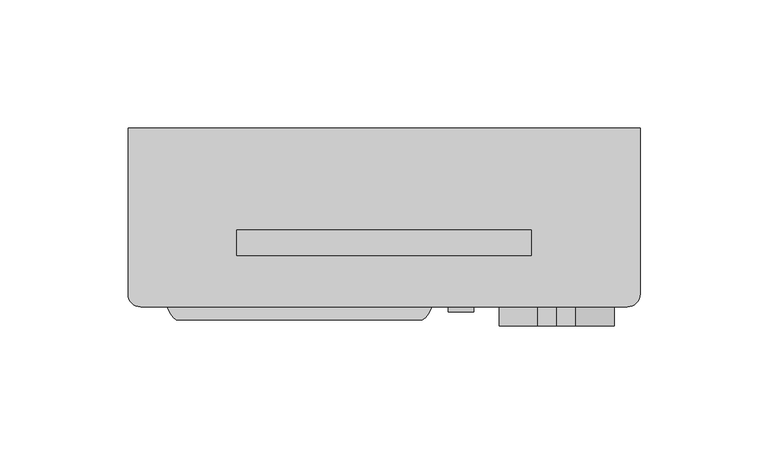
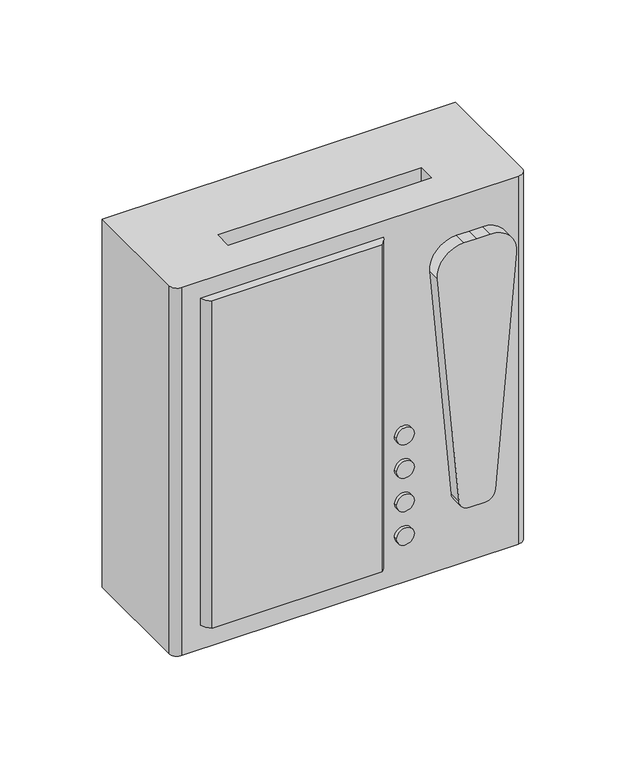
"""IFC4 building model written with IfcOpenShell, lengths in millimetres: proxy geometry, ZYR_08.01.02 Videoporter : 01 Comunicador Interfon."""

import ifcopenshell
import ifcopenshell.guid

model = None  # the IFC model being written
_history = None  # IfcOwnerHistory: only IFC2X3 demands one
_inside = {}  # id of a spatial element -> (the spatial element, [elements in it])
_under = {}  # id of a project, library or spatial element -> (it, [spatial elements below it])
_declared = {}  # id of a project -> (the project, [libraries it declares])
_typed = {}  # id of a type object -> (the type object, [elements of that type])
_made_of = {}  # id of a material, layer set ... -> (it, [elements and type objects made of it])


def new_model(schema):
    """Start an empty IFC model of exactly this schema.

    Asked for "IFC4X3", IfcOpenShell would pick the latest addendum, in which some entities
    have other attributes; the version numbers below select the first issue.
    IFC2X3 requires an IfcOwnerHistory on every rooted entity: one is made here for all.
    """
    global model, _history
    if schema == "IFC4X3":
        model = ifcopenshell.file(schema_version=(4, 3, 0, 0))
    else:
        model = ifcopenshell.file(schema=schema)
    _inside.clear()
    _under.clear()
    _declared.clear()
    _typed.clear()
    _made_of.clear()
    _history = None
    if model.schema == "IFC2X3":
        org = make("IfcOrganization", Name="unknown")
        user = make(
            "IfcPersonAndOrganization",
            ThePerson=make("IfcPerson", FamilyName="unknown"),
            TheOrganization=org,
        )
        app = make(
            "IfcApplication",
            ApplicationDeveloper=org,
            Version="unknown",
            ApplicationFullName="unknown",
            ApplicationIdentifier="unknown",
        )
        _history = make(
            "IfcOwnerHistory",
            OwningUser=user,
            OwningApplication=app,
            ChangeAction="ADDED",
            CreationDate=0,
        )
    return model


def make(cls, **values):
    """One entity of the class cls with the attributes given. An attribute that is None is left unset."""
    return model.create_entity(
        cls, **{name: value for name, value in values.items() if value is not None}
    )


def rooted(cls, **values):
    """An entity with a GlobalId (a new one), such as an element, a storey or a relation."""
    return make(cls, GlobalId=ifcopenshell.guid.new(), OwnerHistory=_history, **values)


def si_unit(unit_type, name, prefix=None):
    """IfcSIUnit, for example si_unit("LENGTHUNIT", "METRE", prefix="MILLI")."""
    return make("IfcSIUnit", UnitType=unit_type, Prefix=prefix, Name=name)


def assignment(units):
    """IfcUnitAssignment: the units of a project."""
    return None if units is None else make("IfcUnitAssignment", Units=units)


def point(xyz):
    """IfcCartesianPoint."""
    return None if xyz is None else make("IfcCartesianPoint", Coordinates=xyz)


def direction(xyz):
    """IfcDirection."""
    return None if xyz is None else make("IfcDirection", DirectionRatios=xyz)


def frame(location, z_axis=None, x_axis=None):
    """IfcAxis2Placement3D, a coordinate frame: its origin and axes. An axis left out is left unset."""
    return make(
        "IfcAxis2Placement3D",
        Location=point(location),
        Axis=direction(z_axis),
        RefDirection=direction(x_axis),
    )


def frame_2d(location, x_axis=None):
    """IfcAxis2Placement2D, a coordinate frame in the plane: its origin and x axis."""
    return make(
        "IfcAxis2Placement2D", Location=point(location), RefDirection=direction(x_axis)
    )


def origin():
    """The frame at (0, 0, 0) with its axes left unset."""
    return frame((0.0, 0.0, 0.0))


def place(relative_to, where):
    """IfcLocalPlacement: puts the frame where relative to a parent placement (None: the world)."""
    return make(
        "IfcLocalPlacement", PlacementRelTo=relative_to, RelativePlacement=where
    )


def context(
    kind, dimensions, precision=None, world=None, true_north=None, identifier=None
):
    """IfcGeometricRepresentationContext, for example the 3D "Model" context."""
    return make(
        "IfcGeometricRepresentationContext",
        ContextIdentifier=identifier,
        ContextType=kind,
        CoordinateSpaceDimension=dimensions,
        Precision=precision,
        WorldCoordinateSystem=world,
        TrueNorth=true_north,
    )


def project(units=None, contexts=None):
    """IfcProject with its units and contexts."""
    return rooted(
        "IfcProject",
        Name="project",
        RepresentationContexts=contexts,
        UnitsInContext=assignment(units),
    )


def spatial(cls, under=None, at=None, **own):
    """A site, building, storey or space (cls), placed at a placement, below another one or the project."""
    s = rooted(cls, ObjectPlacement=at, **own)
    if under is not None:
        _under.setdefault(under.id(), (under, []))[1].append(s)
    return s


def polyline(points):
    """IfcPolyline through the points."""
    return make("IfcPolyline", Points=[point(p) for p in points])


def circle_curve(where, radius):
    """IfcCircle in the frame where."""
    return make("IfcCircle", Position=where, Radius=radius)


def trimmed(basis, trim1, trim2, sense, master):
    """IfcTrimmedCurve: the piece of a basis curve between two trims."""
    return make(
        "IfcTrimmedCurve",
        BasisCurve=basis,
        Trim1=trim1,
        Trim2=trim2,
        SenseAgreement=sense,
        MasterRepresentation=master,
    )


def segment(curve, same_sense, transition):
    """IfcCompositeCurveSegment."""
    return make(
        "IfcCompositeCurveSegment",
        Transition=transition,
        SameSense=same_sense,
        ParentCurve=curve,
    )


def composite_curve(segments, self_intersect=None):
    """IfcCompositeCurve: segments joined end to end."""
    return make("IfcCompositeCurve", Segments=segments, SelfIntersect=self_intersect)


def outline(outer, holes=None, kind="AREA"):
    """IfcArbitraryClosedProfileDef: a profile drawn as a closed curve; with holes, ...WithVoids."""
    if holes is None:
        return make("IfcArbitraryClosedProfileDef", ProfileType=kind, OuterCurve=outer)
    return make(
        "IfcArbitraryProfileDefWithVoids",
        ProfileType=kind,
        OuterCurve=outer,
        InnerCurves=holes,
    )


def extrude(swept, where, along, depth):
    """IfcExtrudedAreaSolid: the profile swept, set in the frame where, extruded along a direction by depth."""
    return make(
        "IfcExtrudedAreaSolid",
        SweptArea=swept,
        Position=where,
        ExtrudedDirection=direction(along),
        Depth=depth,
    )


def shape(context_of_items, identifier, shape_type, items):
    """IfcShapeRepresentation: the items that make up one representation, for example the "Body"."""
    return make(
        "IfcShapeRepresentation",
        ContextOfItems=context_of_items,
        RepresentationIdentifier=identifier,
        RepresentationType=shape_type,
        Items=items,
    )


def source(mapping_origin, context_of_items, identifier, shape_type, items):
    """IfcRepresentationMap: a shape defined once, which mapped items show again and again."""
    return make(
        "IfcRepresentationMap",
        MappingOrigin=mapping_origin,
        MappedRepresentation=shape(context_of_items, identifier, shape_type, items),
    )


def transform(
    local_origin,
    x_axis=None,
    y_axis=None,
    z_axis=None,
    scale=None,
    scale2=None,
    scale3=None,
    uniform=True,
):
    """IfcCartesianTransformationOperator3D, or its non-uniform kind. x_axis, y_axis, z_axis: its Axis1, 2, 3."""
    if uniform:
        return make(
            "IfcCartesianTransformationOperator3D",
            Axis1=direction(x_axis),
            Axis2=direction(y_axis),
            LocalOrigin=point(local_origin),
            Scale=scale,
            Axis3=direction(z_axis),
        )
    return make(
        "IfcCartesianTransformationOperator3DnonUniform",
        Axis1=direction(x_axis),
        Axis2=direction(y_axis),
        LocalOrigin=point(local_origin),
        Scale=scale,
        Axis3=direction(z_axis),
        Scale2=scale2,
        Scale3=scale3,
    )


def mapped(mapping_source, mapping_target):
    """IfcMappedItem: shows the shape of a source again, moved by a transform."""
    return make(
        "IfcMappedItem", MappingSource=mapping_source, MappingTarget=mapping_target
    )


def made_of(thing, what):
    """Note that an element or type object is made of a material, layer set ...; save() writes the relation."""
    if what is not None:
        _made_of.setdefault(what.id(), (what, []))[1].append(thing)
    return thing


def element(
    cls,
    number,
    at=None,
    inside=None,
    cuts=None,
    type_object=None,
    material=None,
    context=None,
    identifier="Body",
    shape_type=None,
    held_by="IfcProductDefinitionShape",
    body=None,
    shapes=None,
    **own,
):
    """One element of the class cls, such as IfcWall. Its Tag is "e" and its number.

    at: its placement. inside: the storey or other place that contains it. cuts: it is an
    opening in that element (IfcRelVoidsElement). A single representation is given by context,
    identifier, shape_type and body (its items); several are given by shapes. held_by: the class
    of the entity that holds the representations. save() writes the other relations.
    """
    e = rooted(cls, Tag="e%d" % number, ObjectPlacement=at, **own)
    if body is not None:
        shapes = [shape(context, identifier, shape_type, body)]
    if shapes is not None:
        e.Representation = make(held_by, Representations=shapes)
    if inside is not None:
        _inside.setdefault(inside.id(), (inside, []))[1].append(e)
    if cuts is not None:
        rooted(
            "IfcRelVoidsElement", RelatingBuildingElement=cuts, RelatedOpeningElement=e
        )
    if type_object is not None:
        _typed.setdefault(type_object.id(), (type_object, []))[1].append(e)
    return made_of(e, material)


def aggregate(whole, parts):
    """IfcRelAggregates: a whole, such as a stair, and the parts it consists of."""
    return rooted("IfcRelAggregates", RelatingObject=whole, RelatedObjects=parts)


def save(model, path):
    """Write the relations noted so far, then the file.

    IfcRelAggregates (storeys below a building ...), IfcRelContainedInSpatialStructure (elements
    in a storey), IfcRelDefinesByType, IfcRelAssociatesMaterial and IfcRelDeclares: one each for
    every whole, place, type object, material and project.
    """
    for whole, parts in _under.values():
        aggregate(whole, parts)
    for where, things in _inside.values():
        rooted(
            "IfcRelContainedInSpatialStructure",
            RelatedElements=things,
            RelatingStructure=where,
        )
    for kind, things in _typed.values():
        rooted("IfcRelDefinesByType", RelatedObjects=things, RelatingType=kind)
    for what, things in _made_of.values():
        rooted("IfcRelAssociatesMaterial", RelatedObjects=things, RelatingMaterial=what)
    for by, libraries in _declared.values():
        rooted("IfcRelDeclares", RelatingContext=by, RelatedDefinitions=libraries)
    model.write(path)


def plane_surface(at):
    """IfcPlane: the flat surface through the origin of the frame at, square to its z axis."""
    return make("IfcPlane", Position=at)


def cylinder_surface(at, radius):
    """IfcCylindricalSurface: all points at the distance radius from the z axis of the frame at."""
    return make("IfcCylindricalSurface", Position=at, Radius=radius)


def advanced_brep(points, edges, surfaces, faces):
    """IfcAdvancedBrep: a solid bounded by faces that lie on surfaces and meet in shared edges.

    An edge is (start, end): straight between two places in points (the first is 0);
    or (start, end, curve); or (start, end, curve, False) where it runs against its curve.
    A face is (place in surfaces, loops), or (place, loops, False) where it looks against
    its surface's normal. A loop lists edges by number (the first is 1), with a minus sign
    where the edge is run from its end to its start. The first loop is the outer one.
    """
    corners = [point(p) for p in points]
    vertices = [make("IfcVertexPoint", VertexGeometry=c) for c in corners]
    made = []
    for start, end, *more in edges:
        made.append(
            make(
                "IfcEdgeCurve",
                EdgeStart=vertices[start],
                EdgeEnd=vertices[end],
                EdgeGeometry=more[0] if more else make("IfcPolyline", Points=[corners[start], corners[end]]),
                SameSense=more[1] if len(more) > 1 else True,
            )
        )
    hull = []
    for where, loops, *sense in faces:
        bounds = []
        for j, loop in enumerate(loops):
            ring = [make("IfcOrientedEdge", EdgeElement=made[abs(k) - 1], Orientation=k > 0) for k in loop]
            bounds.append(
                make(
                    "IfcFaceOuterBound" if j == 0 else "IfcFaceBound",
                    Bound=make("IfcEdgeLoop", EdgeList=ring),
                    Orientation=True,
                )
            )
        hull.append(make("IfcAdvancedFace", Bounds=bounds, FaceSurface=surfaces[where], SameSense=sense[0] if sense else True))
    return make("IfcAdvancedBrep", Outer=make("IfcClosedShell", CfsFaces=hull))


def communication_devices_0fa205ae(model_context):
    return source(origin(), model_context, "Body", "SolidModel", [
        extrude(outline(composite_curve([segment(polyline([(15.0, -75.0), (-81.0565215, -75.0)]), True, "CONTINUOUS"), segment(trimmed(circle_curve(frame_2d((-76.3587088, -67.7144664)), 8.6688203), [point((-81.0565215, -75.0))], [point((-84.7208126, -70.0))], False, "CARTESIAN"), True, "CONTINUOUS"), segment(polyline([(-84.7208126, -70.0), (18.6642911, -70.0)]), True, "CONTINUOUS"), segment(trimmed(circle_curve(frame_2d((10.275265, -67.6947362)), 8.7), [point((18.6642911, -70.0))], [point((15.0, -75.0))], False, "CARTESIAN"), True, "CONTINUOUS")], self_intersect=False)), frame((0.0, 0.0, 14.4795935), z_axis=(0.0, 0.0, 1.0), x_axis=(1.0, 0.0, 0.0)), (0.0, 0.0, 1.0), 195.5523834),
        extrude(outline(composite_curve([segment(trimmed(circle_curve(frame_2d((28.5552709, 30.0619861)), 5.0), [point((28.5552709, 25.0619861))], [point((28.5552709, 35.0619861))], False, "CARTESIAN"), True, "CONTINUOUS"), segment(trimmed(circle_curve(frame_2d((28.5552709, 30.0619861)), 5.0), [point((28.5552709, 35.0619861))], [point((28.5552709, 25.0619861))], False, "CARTESIAN"), True, "CONTINUOUS")], self_intersect=False)), frame((0.0, -71.9613383, 0.0), z_axis=(0.0, 1.0, 0.0), x_axis=(0.0, 0.0, 1.0)), (0.0, 0.0, 1.0), 1.9613383),
        extrude(outline(composite_curve([segment(trimmed(circle_curve(frame_2d((48.5552709, 30.0619861)), 5.0), [point((48.5552709, 25.0619861))], [point((48.5552709, 35.0619861))], False, "CARTESIAN"), True, "CONTINUOUS"), segment(trimmed(circle_curve(frame_2d((48.5552709, 30.0619861)), 5.0), [point((48.5552709, 35.0619861))], [point((48.5552709, 25.0619861))], False, "CARTESIAN"), True, "CONTINUOUS")], self_intersect=False)), frame((0.0, -71.9613383, 0.0), z_axis=(0.0, 1.0, 0.0), x_axis=(0.0, 0.0, 1.0)), (0.0, 0.0, 1.0), 1.9613383),
        extrude(outline(composite_curve([segment(trimmed(circle_curve(frame_2d((68.5552709, 30.0619861)), 5.0), [point((68.5552709, 25.0619861))], [point((68.5552709, 35.0619861))], False, "CARTESIAN"), True, "CONTINUOUS"), segment(trimmed(circle_curve(frame_2d((68.5552709, 30.0619861)), 5.0), [point((68.5552709, 35.0619861))], [point((68.5552709, 25.0619861))], False, "CARTESIAN"), True, "CONTINUOUS")], self_intersect=False)), frame((0.0, -71.9613383, 0.0), z_axis=(0.0, 1.0, 0.0), x_axis=(0.0, 0.0, 1.0)), (0.0, 0.0, 1.0), 1.9613383),
        extrude(outline(composite_curve([segment(trimmed(circle_curve(frame_2d((88.5552709, 30.0619861)), 5.0), [point((88.5552709, 25.0619861))], [point((88.5552709, 35.0619861))], False, "CARTESIAN"), True, "CONTINUOUS"), segment(trimmed(circle_curve(frame_2d((88.5552709, 30.0619861)), 5.0), [point((88.5552709, 35.0619861))], [point((88.5552709, 25.0619861))], False, "CARTESIAN"), True, "CONTINUOUS")], self_intersect=False)), frame((0.0, -71.9613383, 0.0), z_axis=(0.0, 1.0, 0.0), x_axis=(0.0, 0.0, 1.0)), (0.0, 0.0, 1.0), 1.9613383),
        extrude(outline(composite_curve([segment(trimmed(circle_curve(frame_2d((43.7020872, 63.0939138)), 6.0), [point((43.1791527, 57.1167456))], [point((37.7020872, 63.0939138))], False, "CARTESIAN"), True, "CONTINUOUS"), segment(polyline([(37.7020872, 63.0939138), (37.7020872, 71.8793629)]), True, "CONTINUOUS"), segment(trimmed(circle_curve(frame_2d((43.7020872, 71.8793629)), 6.0), [point((37.7020872, 71.8793629))], [point((43.1791527, 77.8565311))], False, "CARTESIAN"), True, "CONTINUOUS"), segment(polyline([(43.1791527, 77.8565311), (180.4328143, 89.8646705)]), True, "CONTINUOUS"), segment(trimmed(circle_curve(frame_2d((181.7401505, 74.9217501)), 15.0), [point((180.4328143, 89.8646705))], [point((196.7401505, 74.9217501))], False, "CARTESIAN"), True, "CONTINUOUS"), segment(polyline([(196.7401505, 74.9217501), (196.7401505, 67.4866383), (196.7401505, 60.0515266)]), True, "CONTINUOUS"), segment(trimmed(circle_curve(frame_2d((181.7401505, 60.0515266)), 15.0), [point((196.7401505, 60.0515266))], [point((180.4328143, 45.1086062))], False, "CARTESIAN"), True, "CONTINUOUS"), segment(polyline([(180.4328143, 45.1086062), (43.1791527, 57.1167456)]), True, "CONTINUOUS")], self_intersect=False)), frame((0.0, -77.3894169, 0.0), z_axis=(0.0, 1.0, 0.0), x_axis=(0.0, 0.0, 1.0)), (0.0, 0.0, 1.0), 7.3894169),
        advanced_brep(
        [(95.0, -70.0, 220.0), (100.0, -65.0, 220.0), (100.0, 0.0, 220.0), (-100.0, 0.0, 220.0), (-100.0, -65.0, 220.0), (-95.0, -70.0, 220.0), (57.5, -39.9367083, 220.0), (57.5, -50.0, 220.0), (-57.5, -50.0, 220.0), (-57.5, -39.9367083, 220.0), (95.0, -70.0, 0.0), (-95.0, -70.0, 0.0), (-100.0, -65.0, 0.0), (-100.0, 0.0, 0.0), (100.0, 0.0, 0.0), (100.0, -65.0, 0.0), (57.5, -50.0, 211.6494452), (57.5, -39.9367083, 211.6494452), (-57.5, -39.9367083, 211.6494452), (-57.5, -50.0, 211.6494452)],
        [
            (0, 1, circle_curve(frame((95.0, -65.0, 220.0), z_axis=(0.0, 0.0, 1.0), x_axis=(1.0, 0.0, 0.0)), 5.0)),
            (1, 2),
            (2, 3),
            (3, 4),
            (4, 5, circle_curve(frame((-95.0, -65.0, 220.0), z_axis=(0.0, 0.0, 1.0), x_axis=(1.0, 0.0, 0.0)), 5.0)),
            (5, 0),
            (6, 7),
            (7, 8),
            (8, 9),
            (9, 6),
            (10, 11),
            (11, 12, circle_curve(frame((-95.0, -65.0, 0.0), z_axis=(0.0, 0.0, -1.0), x_axis=(1.0, 0.0, 0.0)), 5.0)),
            (12, 13),
            (13, 14),
            (14, 15),
            (15, 10, circle_curve(frame((95.0, -65.0, 0.0), z_axis=(0.0, 0.0, -1.0), x_axis=(1.0, 0.0, 0.0)), 5.0)),
            (1, 15),
            (14, 2),
            (13, 3),
            (12, 4),
            (5, 11),
            (10, 0),
            (16, 17),
            (17, 18),
            (18, 19),
            (19, 16),
            (16, 7),
            (6, 17),
            (9, 18),
            (8, 19),
        ],
        [
            plane_surface(frame((100.0, -65.0, 220.0), z_axis=(0.0, 0.0, 1.0), x_axis=(0.0, 1.0, 0.0))),
            plane_surface(frame((100.0, -65.0, 0.0), z_axis=(0.0, 0.0, -1.0), x_axis=(0.0, -1.0, 0.0))),
            plane_surface(frame((100.0, -65.0, 220.0), z_axis=(1.0, 0.0, 0.0), x_axis=(0.0, 0.0, -1.0))),
            plane_surface(frame((100.0, 0.0, 220.0), z_axis=(0.0, 1.0, 0.0), x_axis=(0.0, 0.0, -1.0))),
            plane_surface(frame((-100.0, 0.0, 220.0), z_axis=(-1.0, 0.0, 0.0), x_axis=(0.0, 0.0, -1.0))),
            plane_surface(frame((-95.0, -70.0, 220.0), z_axis=(0.0, -1.0, 0.0), x_axis=(0.0, 0.0, -1.0))),
            cylinder_surface(frame((95.0, -65.0, 0.0), z_axis=(0.0, 0.0, 1.0), x_axis=(1.0, 0.0, 0.0)), 5.0),
            cylinder_surface(frame((-95.0, -65.0, 0.0), z_axis=(0.0, 0.0, 1.0), x_axis=(1.0, 0.0, 0.0)), 5.0),
            plane_surface(frame((57.5, -50.0, 211.6494452), z_axis=(0.0, 0.0, 1.0), x_axis=(0.0, -1.0, 0.0))),
            plane_surface(frame((57.5, -50.0, 331.6494452), z_axis=(-1.0, 0.0, 0.0), x_axis=(0.0, 0.0, -1.0))),
            plane_surface(frame((57.5, -39.9367083, 331.6494452), z_axis=(0.0, -1.0, 0.0), x_axis=(0.0, 0.0, -1.0))),
            plane_surface(frame((-57.5, -39.9367083, 331.6494452), z_axis=(1.0, 0.0, 0.0), x_axis=(0.0, 0.0, -1.0))),
            plane_surface(frame((-57.5, -50.0, 331.6494452), z_axis=(0.0, 1.0, 0.0), x_axis=(0.0, 0.0, -1.0))),
        ],
        [
            (0, [[1, 2, 3, 4, 5, 6], [7, 8, 9, 10]]),
            (1, [[11, 12, 13, 14, 15, 16]]),
            (2, [[-2, 17, -15, 18]]),
            (3, [[-3, -18, -14, 19]]),
            (4, [[-4, -19, -13, 20]]),
            (5, [[-6, 21, -11, 22]]),
            (6, [[-1, -22, -16, -17]]),
            (7, [[-5, -20, -12, -21]]),
            (8, [[23, 24, 25, 26]]),
            (9, [[-23, 27, -7, 28]]),
            (10, [[-24, -28, -10, 29]]),
            (11, [[-25, -29, -9, 30]]),
            (12, [[-26, -30, -8, -27]]),
        ],
    ),
    ])


if __name__ == "__main__":
    model = new_model("IFC4")
    model_context = context("Model", 3, world=origin())
    ifc_project = project(units=[si_unit("LENGTHUNIT", "METRE", prefix="MILLI")], contexts=[model_context])
    site = spatial("IfcSite", under=ifc_project)
    building = spatial("IfcBuilding", under=site)
    placement = place(None, origin())
    communication_devices_shape = communication_devices_0fa205ae(model_context)
    element("IfcBuildingElementProxy", 1, Name="ZYR_08.01.02 Videoporter : 01 Comunicador Interfon", ObjectType="ZYR_08.01.02 Videoporter : 01 Comunicador Interfon", at=placement, inside=building, context=model_context, shape_type="MappedRepresentation", body=[
        mapped(communication_devices_shape, transform((0.0, 0.0, 0.0), x_axis=(1.0, 0.0, 0.0), y_axis=(0.0, 1.0, 0.0), z_axis=(0.0, 0.0, 1.0))),
    ])
    save(model, "model.ifc")
